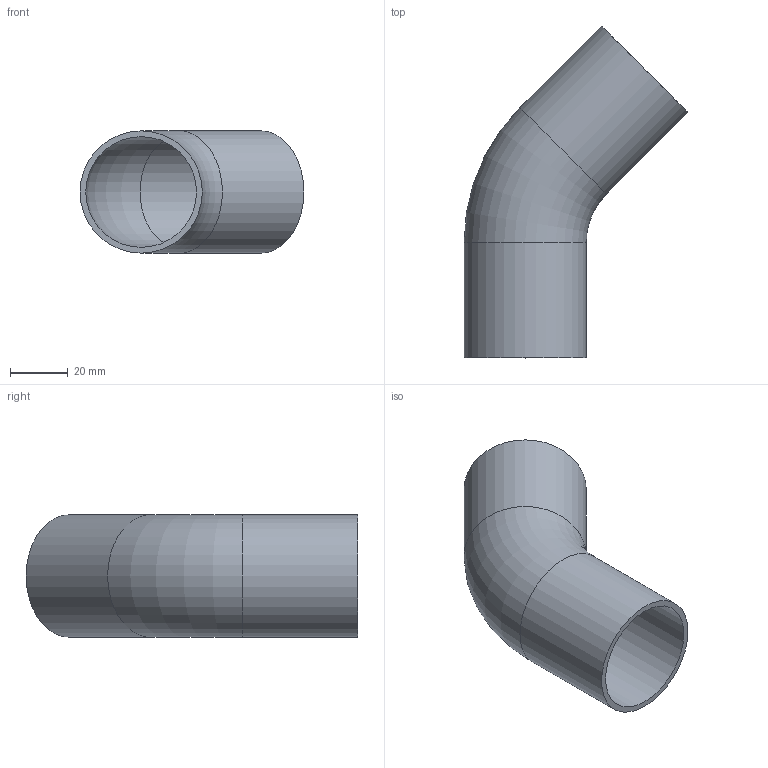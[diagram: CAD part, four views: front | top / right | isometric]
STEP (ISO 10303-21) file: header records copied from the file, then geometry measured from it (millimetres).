
FILE_DESCRIPTION(/* description */ (''),/* implementation_level */ '2;1');
FILE_NAME(/* name */ 'C:\Users\LK_9K\Desktop\STRAUB BOGEN 45 B3 DN32.stp',/* time_stamp */ '2021-04-09T07:19:28+02:00',/* author */ ('LK_9K'),/* organization */ (''),/* preprocessor_version */ 'ST-DEVELOPER v18.1',/* originating_system */ 'Autodesk Inventor 2020',/* authorisation */ '');
FILE_SCHEMA (('AUTOMOTIVE_DESIGN { 1 0 10303 214 3 1 1 }'));
Length unit declared in the file: millimetre
Products named in the file (1): Bauteil1
Bounding box: 77.66 x 115.09 x 42.4 mm (x, y, z)
Volume: 29278.7 mm3; surface area: 29786.4 mm2
Topology: 1 solids, 1 shells, 8 faces, 20 edges, 14 vertices
Faces by surface type: cylinder 4, torus 2, plane 2
Full cylindrical faces by diameter (mm): 38.4 x2, 42.4 x2
Entity records: 301 total; most frequent: DIRECTION 54, CARTESIAN_POINT 43, ORIENTED_EDGE 40, AXIS2_PLACEMENT_3D 25, EDGE_CURVE 20, CIRCLE 16, VERTEX_POINT 14, EDGE_LOOP 10
